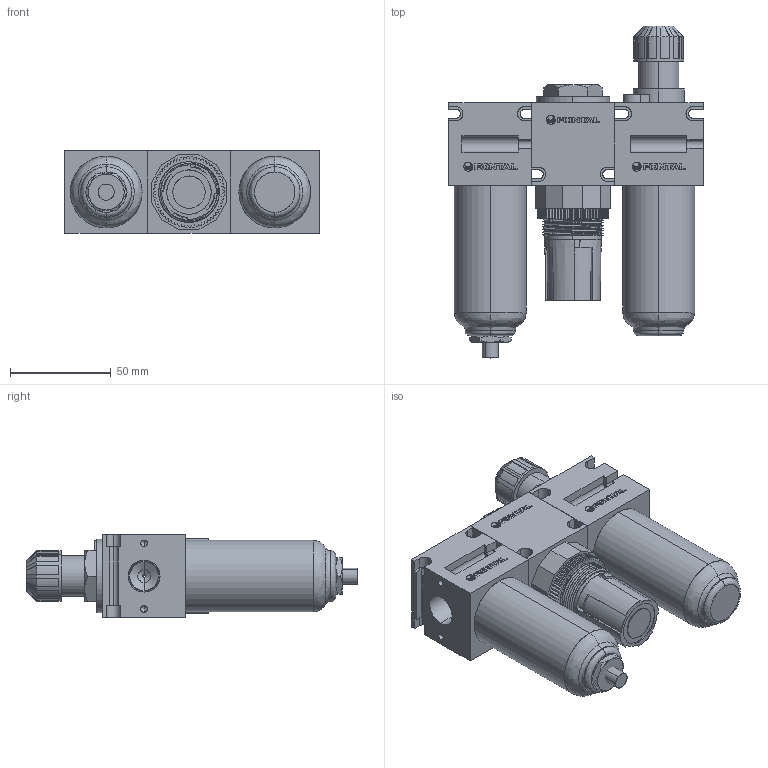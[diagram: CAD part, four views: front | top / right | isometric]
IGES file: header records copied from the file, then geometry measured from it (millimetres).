
Start section: SolidWorks IGES file using analytic representation for surfaces
Global section: file name: C:\Users\Toshiba\Desktop\C45##-03#Y##.IGS; native system: SolidWorks 2014; preprocessor: SolidWorks 2014; author: Toshiba; date: 160203.162733; units: millimetre
Bounding box: 126 x 164.5 x 41.12 mm (x, y, z)
Surface area: 84960.8 mm2 (no closed solid volume)
Topology: 0 solids, 0 shells, 949 faces, 9565 edges, 9557 vertices
Faces by surface type: bspline 632, revolution 317
